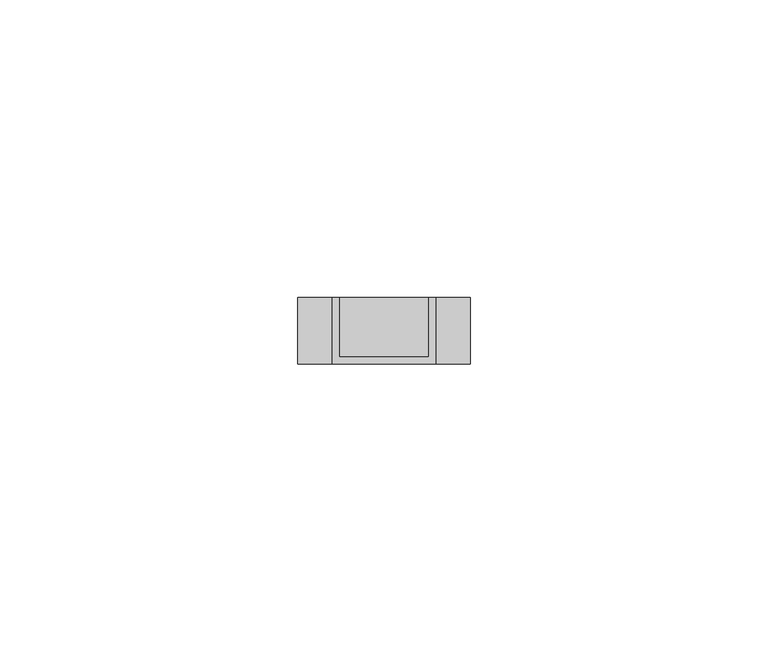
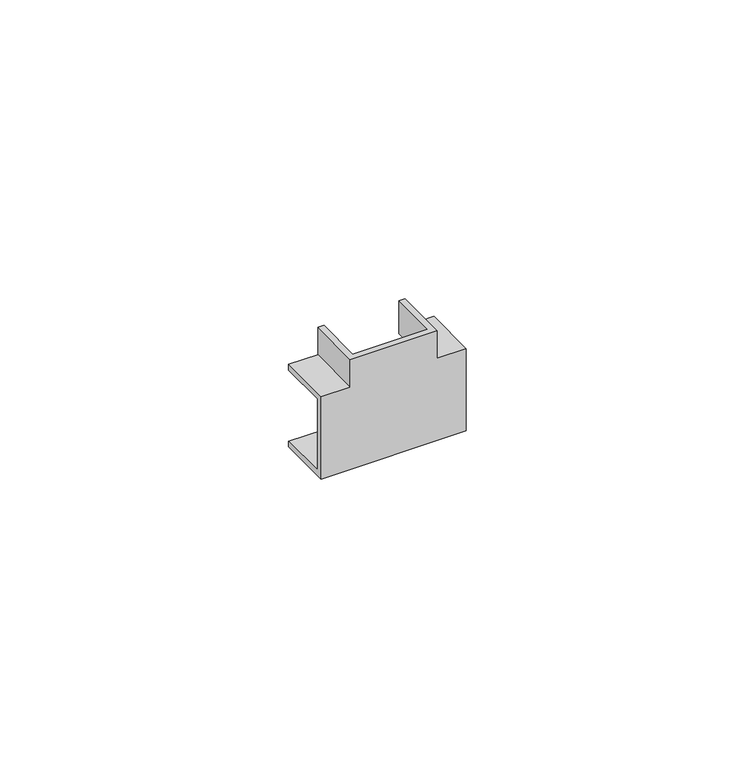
"""IFC4 building model written with IfcOpenShell, lengths in millimetres: proxy geometry, Угол_Т-образный КМТ : Угол Т-образный КМТ 15х10."""

from ifc_helpers import new_model, si_unit, origin, place, context, project, spatial, faceted_brep, source, transform, mapped, element, save


def generic_models_317c2ff9(model_context):
    return source(origin(), model_context, "Body", "Brep", [
        faceted_brep([(-8.7, -11.2, 8.7), (-14.5, -11.2, 8.7), (-14.5, -11.2, -8.7), (14.5, -11.2, -8.7), (14.5, -11.2, 8.7), (8.7, -11.2, 8.7), (8.7, -11.2, 14.5), (-8.7, -11.2, 14.5), (-8.7, 0.0, 8.7), (-8.7, 0.0, 14.5), (-7.5, 0.0, 14.5), (-7.5, 0.0, 7.5), (-14.5, 0.0, 7.5), (-14.5, 0.0, 8.7), (8.7, 0.0, 14.5), (8.7, 0.0, 8.7), (14.5, 0.0, 8.7), (14.5, 0.0, 7.5), (7.5, 0.0, 7.5), (7.5, 0.0, 14.5), (14.5, 0.0, -8.7), (-14.5, 0.0, -8.7), (-14.5, 0.0, -7.5), (-7.5, 0.0, -7.5), (7.5, 0.0, -7.5), (14.5, 0.0, -7.5), (-14.5, -10.0, 7.5), (-14.5, -10.0, -7.5), (14.5, -10.0, -7.5), (14.5, -10.0, 7.5), (7.5, -10.0, 14.5), (-7.5, -10.0, 14.5), (-7.5, -10.0, 7.5), (7.5, -10.0, 7.5)], [[[0, 1, 2, 3, 4, 5, 6, 7]], [[8, 9, 10, 11, 12, 13]], [[14, 15, 16, 17, 18, 19]], [[20, 21, 22, 23, 24, 25]], [[1, 0, 8, 13]], [[2, 1, 13, 12, 26, 27, 22, 21]], [[3, 2, 21, 20]], [[4, 3, 20, 25, 28, 29, 17, 16]], [[5, 4, 16, 15]], [[6, 5, 15, 14]], [[7, 6, 14, 19, 30, 31, 10, 9]], [[0, 7, 9, 8]], [[27, 26, 32, 31, 30, 33, 29, 28]], [[22, 27, 28, 25, 24, 23]], [[26, 12, 11, 32]], [[17, 29, 33, 18]], [[33, 30, 19, 18]], [[31, 32, 11, 10]]]),
    ])


if __name__ == "__main__":
    model = new_model("IFC4")
    model_context = context("Model", 3, world=origin())
    ifc_project = project(units=[si_unit("LENGTHUNIT", "METRE", prefix="MILLI")], contexts=[model_context])
    site = spatial("IfcSite", under=ifc_project)
    building = spatial("IfcBuilding", under=site)
    placement = place(None, origin())
    generic_models_shape = generic_models_317c2ff9(model_context)
    element("IfcBuildingElementProxy", 1, Name="Угол_Т-образный КМТ : Угол Т-образный КМТ 15х10", ObjectType="Угол_Т-образный КМТ : Угол Т-образный КМТ 15х10", at=placement, inside=building, context=model_context, shape_type="MappedRepresentation", body=[
        mapped(generic_models_shape, transform((0.0, 0.0, 0.0), x_axis=(1.0, 0.0, 0.0), y_axis=(0.0, 1.0, 0.0), z_axis=(0.0, 0.0, 1.0))),
    ])
    save(model, "model.ifc")
